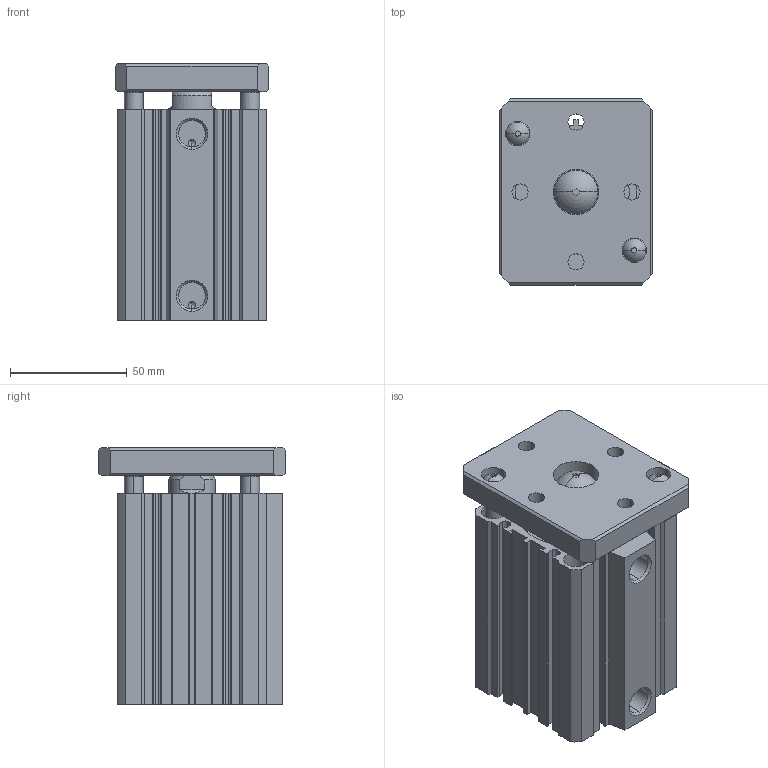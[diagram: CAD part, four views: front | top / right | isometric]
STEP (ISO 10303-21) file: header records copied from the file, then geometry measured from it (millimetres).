
FILE_DESCRIPTION (( 'STEP AP214' ), '1' );
FILE_NAME ('MCGJ-12-50-50.STEP', '2013-10-22T20:44:32', ( 'user' ), ( '' ), 'SwSTEP 2.0', 'SolidWorks 2009', '' );
FILE_SCHEMA (( 'AUTOMOTIVE_DESIGN' ));
Length unit declared in the file: millimetre
Products named in the file (2): MCGJ-12-50-50
Assembly tree (1 placements, depth 2):
  MCGJ-12-50-50
    MCGJ-12-50-50
Bounding box: 66 x 80 x 110 mm (x, y, z)
Volume: 374657.7 mm3; surface area: 72311.8 mm2
Topology: 1 solids, 4 shells, 379 faces, 1018 edges, 668 vertices
Faces by surface type: plane 197, cylinder 156, cone 20, torus 6
Entity records: 12009 total; most frequent: CARTESIAN_POINT 2185, DIRECTION 2084, ORIENTED_EDGE 2028, EDGE_CURVE 1014, AXIS2_PLACEMENT_3D 719, VERTEX_POINT 668, LINE 646, VECTOR 646
